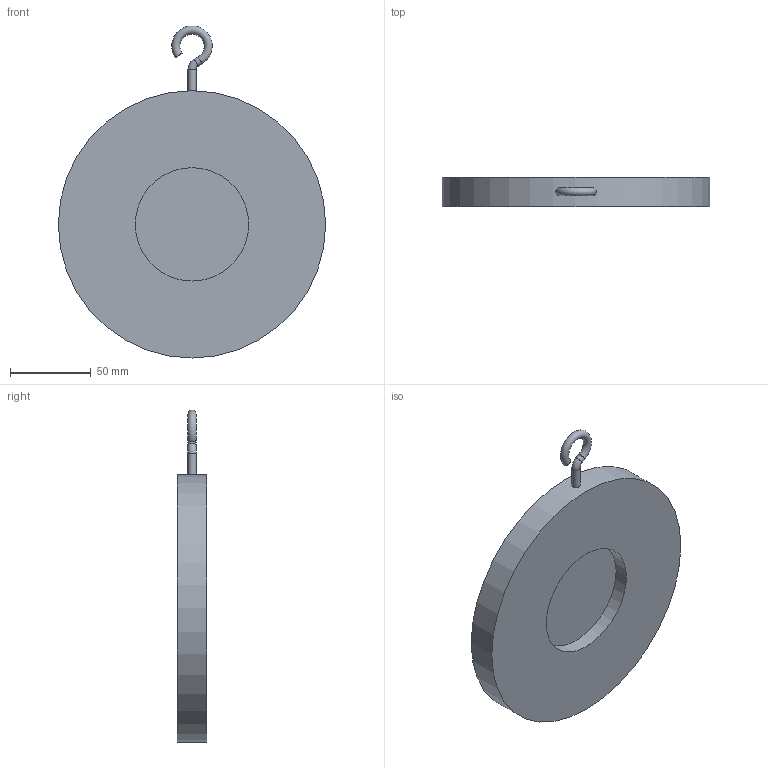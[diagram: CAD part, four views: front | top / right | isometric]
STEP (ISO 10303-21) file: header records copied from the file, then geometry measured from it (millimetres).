
FILE_DESCRIPTION(('STEP AP203'), '1');
FILE_NAME('孰囡囗 钺疣蝽 钿眍耱忸瘅囹 戾骠豚眦邂 008C DN100', '', ('UNSPECIFIED'), ('UNSPECIFIED'), 'ASCON STEP Converter 1.6', 'ASCON Math Kernel', '');
FILE_SCHEMA(('CONFIG_CONTROL_DESIGN'));
Length unit declared in the file: millimetre
Bounding box: 165 x 18 x 204.96 mm (x, y, z)
Volume: 310133.3 mm3; surface area: 58606.5 mm2
Topology: 1 solids, 1 shells, 15 faces, 30 edges, 19 vertices
Faces by surface type: plane 7, cylinder 5, torus 2, cone 1
Full cylindrical faces by diameter (mm): 5 x2, 70 x1, 165 x1
Entity records: 731 total; most frequent: CARTESIAN_POINT 287, DIRECTION 62, ORIENTED_EDGE 46, AXIS2_PLACEMENT_3D 28, EDGE_LOOP 24, EDGE_CURVE 23, VERTEX_POINT 19, COLOUR_RGB 16
